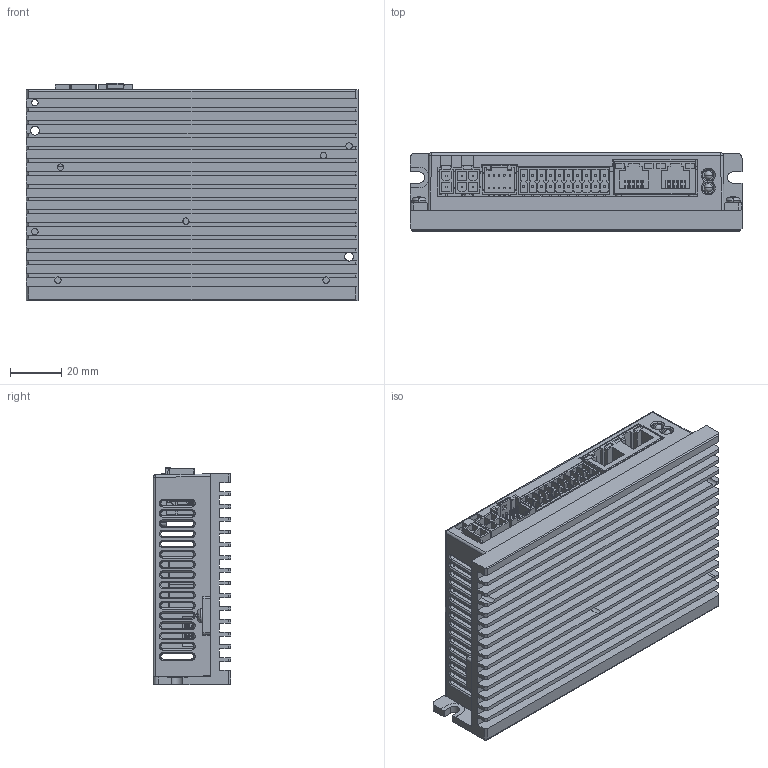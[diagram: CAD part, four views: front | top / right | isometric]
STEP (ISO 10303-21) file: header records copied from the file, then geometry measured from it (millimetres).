
FILE_DESCRIPTION((''),'2;1');
FILE_NAME('SSD2505PE_SW0001','2022-06-30T13:45:45',('Admin'),(''),'CREO PARAMETRIC BY PTC INC, 2020074','CREO PARAMETRIC BY PTC INC, 2020074','');
FILE_SCHEMA(('CONFIG_CONTROL_DESIGN','SHAPE_APPEARANCE_LAYERS_GROUPS'));
Products named in the file (1): SSD2505PE_SW0001
Bounding box: 130 x 30.5 x 85 mm (x, y, z)
Volume: 101290.6 mm3; surface area: 90391.1 mm2
Topology: 10 solids, 10 shells, 1975 faces, 5340 edges, 3479 vertices
Faces by surface type: plane 1537, cylinder 336, bspline 70, sphere 14, cone 14, torus 4
Entity records: 83268 total; most frequent: CARTESIAN_POINT 18197, ORIENTED_EDGE 10672, DIRECTION 9492, EDGE_CURVE 5336, VECTOR 4432, LINE 4432, VERTEX_POINT 3479, AXIS2_PLACEMENT_3D 2530
